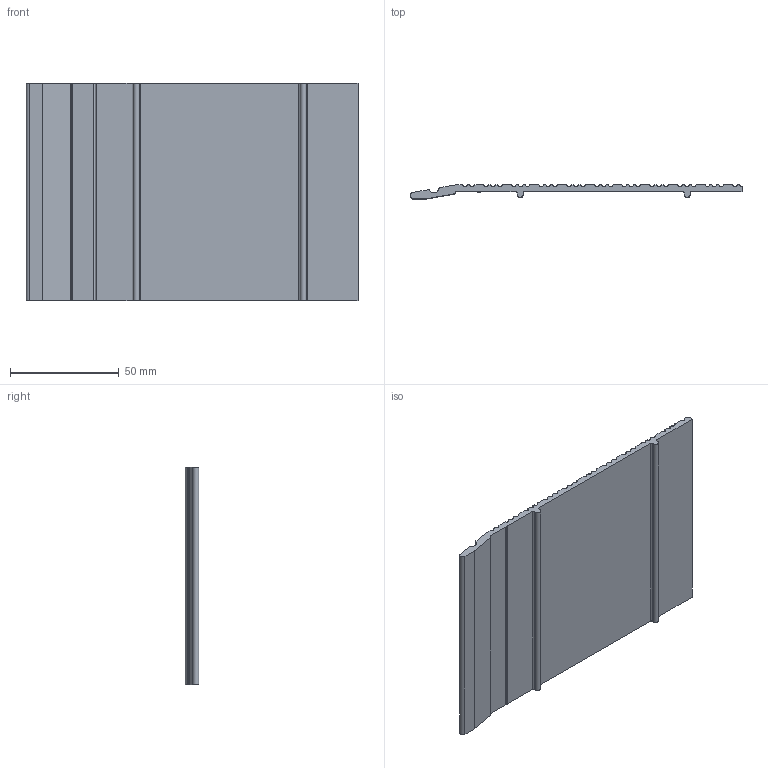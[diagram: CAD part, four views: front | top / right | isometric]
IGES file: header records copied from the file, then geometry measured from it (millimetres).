
Global section: file name: No Iges File Name specified; native system: Autodesk Inventor 2012; preprocessor: AutoDesk Inventor Iges Exporter R2012; author: anna.b; date: 20130718.121007; units: millimetre
Bounding box: 152.4 x 6.35 x 100 mm (x, y, z)
Volume: 44632.2 mm3; surface area: 35075.5 mm2
Topology: 1 solids, 1 shells, 155 faces, 459 edges, 306 vertices
Faces by surface type: cylinder 70, plane 48, revolution 37
